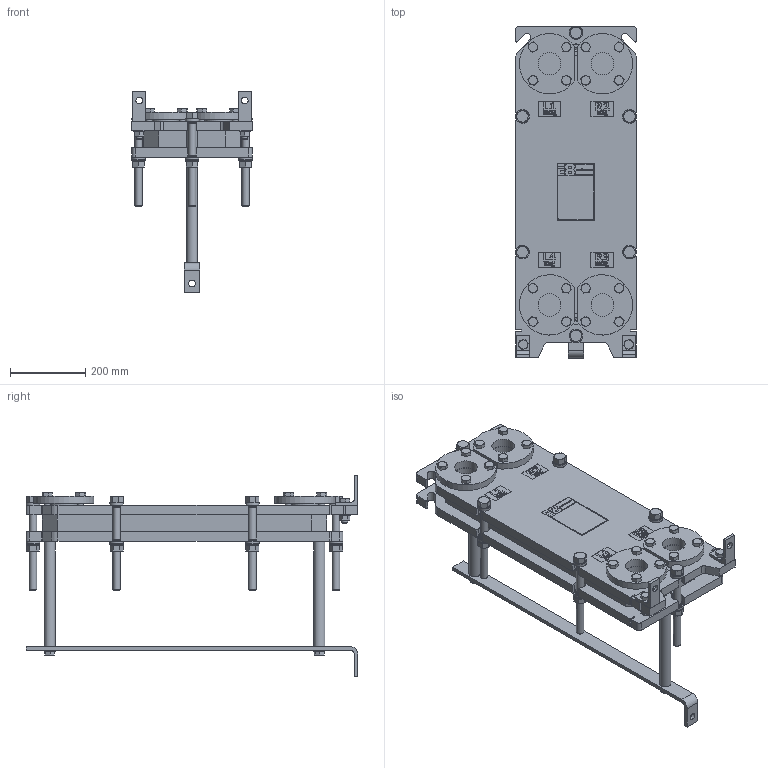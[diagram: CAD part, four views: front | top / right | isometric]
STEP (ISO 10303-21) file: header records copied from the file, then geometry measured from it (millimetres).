
FILE_DESCRIPTION (( 'STEP AP214' ), '1' );
FILE_NAME ('ÏÒ SX50 ðåä 4 ê ñèãìà 5...43.STEP', '2021-04-04T16:40:27', ( '' ), ( '' ), 'SwSTEP 2.0', 'SolidWorks 2018', '' );
FILE_SCHEMA (( 'AUTOMOTIVE_DESIGN' ));
Length unit declared in the file: millimetre
Products named in the file (3): ÏÒ SX50 ðåä 4 ê ñèãìà2 5...43; ÏÒ SX50 ðåä 4 ê ñèãìà1; ÏÒ SX50 ðåä 4 ê ñèãìà 5...43
Assembly tree (2 placements, depth 2):
  ÏÒ SX50 ðåä 4 ê ñèãìà 5...43
    ÏÒ SX50 ðåä 4 ê ñèãìà2 5...43
    ÏÒ SX50 ðåä 4 ê ñèãìà1
Bounding box: 320 x 880 x 535 mm (x, y, z)
Volume: 23817109.1 mm3; surface area: 2323780 mm2
Topology: 28 solids, 34 shells, 2016 faces, 4908 edges, 3139 vertices
Faces by surface type: plane 1036, cone 430, bspline 275, cylinder 241, torus 34
Full cylindrical faces by diameter (mm): 16 x44, 17 x4, 18 x25, 20 x12, 21 x12, 27 x12, 29.48 x2, 30 x8, 36 x12, 60 x8, 60.01 x4, 60.2 x4, 72.4 x4
Entity records: 89000 total; most frequent: CARTESIAN_POINT 23698, ORIENTED_EDGE 9012, DIRECTION 7808, EDGE_CURVE 4506, VERTEX_POINT 3052, AXIS2_PLACEMENT_3D 2706, EDGE_LOOP 2616, LINE 2396
